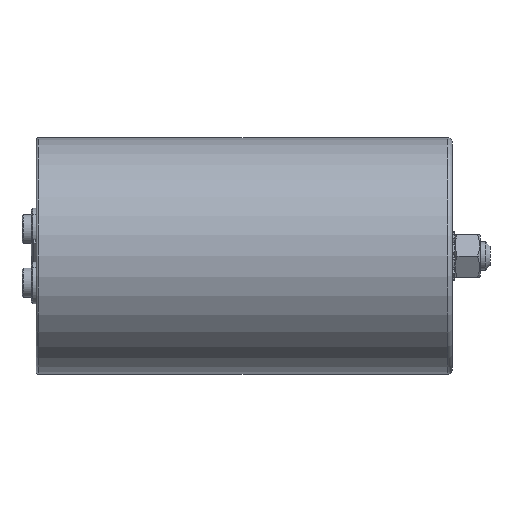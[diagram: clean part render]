
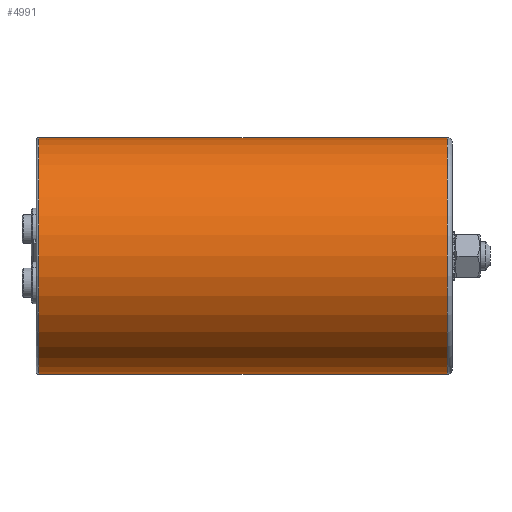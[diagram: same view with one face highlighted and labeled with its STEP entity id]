
A CAD part, left-side view. The second image highlights one B-rep face of the part: STEP entity #4991.
In plain terms, the highlighted cylindrical face has radius 50 mm (diameter 100 mm), a partial arc.
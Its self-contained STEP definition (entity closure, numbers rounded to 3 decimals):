
#579 = AXIS2_PLACEMENT_3D ( 'NONE', #5250, #2108, #3945 ) ;
#869 = EDGE_LOOP ( 'NONE', ( #922, #885, #3490, #1174 ) ) ;
#885 = ORIENTED_EDGE ( 'NONE', *, *, #2306, .T. ) ;
#922 = ORIENTED_EDGE ( 'NONE', *, *, #5337, .T. ) ;
#1113 = DIRECTION ( 'NONE',  ( 0., 1., 0. ) ) ;
#1174 = ORIENTED_EDGE ( 'NONE', *, *, #3330, .F. ) ;
#1218 = VERTEX_POINT ( 'NONE', #2378 ) ;
#1743 = DIRECTION ( 'NONE',  ( 0., 1., 0. ) ) ;
#1957 = DIRECTION ( 'NONE',  ( 0., 0., -1. ) ) ;
#2089 = AXIS2_PLACEMENT_3D ( 'NONE', #6515, #6971, #1957 ) ;
#2108 = DIRECTION ( 'NONE',  ( 0., -1., 0. ) ) ;
#2306 = EDGE_CURVE ( 'NONE', #4653, #3576, #2626, .T. ) ;
#2378 = CARTESIAN_POINT ( 'NONE',  ( 0., -174., -50. ) ) ;
#2626 = LINE ( 'NONE', #7647, #3880 ) ;
#3109 = LINE ( 'NONE', #3569, #4172 ) ;
#3227 = AXIS2_PLACEMENT_3D ( 'NONE', #6752, #1113, #6153 ) ;
#3330 = EDGE_CURVE ( 'NONE', #1218, #6441, #3109, .T. ) ;
#3490 = ORIENTED_EDGE ( 'NONE', *, *, #5012, .T. ) ;
#3557 = FACE_OUTER_BOUND ( 'NONE', #869, .T. ) ;
#3569 = CARTESIAN_POINT ( 'NONE',  ( 0., -10., -50. ) ) ;
#3576 = VERTEX_POINT ( 'NONE', #7809 ) ;
#3880 = VECTOR ( 'NONE', #6967, 1000. ) ;
#3920 = CARTESIAN_POINT ( 'NONE',  ( 0., -1., -50. ) ) ;
#3945 = DIRECTION ( 'NONE',  ( 0., 0., 1. ) ) ;
#4172 = VECTOR ( 'NONE', #1743, 1000. ) ;
#4653 = VERTEX_POINT ( 'NONE', #7887 ) ;
#4991 = ADVANCED_FACE ( 'NONE', ( #3557 ), #5734, .T. ) ;
#5012 = EDGE_CURVE ( 'NONE', #3576, #6441, #7509, .T. ) ;
#5250 = CARTESIAN_POINT ( 'NONE',  ( 0., -1., 0. ) ) ;
#5337 = EDGE_CURVE ( 'NONE', #1218, #4653, #7317, .T. ) ;
#5734 = CYLINDRICAL_SURFACE ( 'NONE', #2089, 50. ) ;
#6153 = DIRECTION ( 'NONE',  ( 0., 0., -1. ) ) ;
#6441 = VERTEX_POINT ( 'NONE', #3920 ) ;
#6515 = CARTESIAN_POINT ( 'NONE',  ( 0., -10., 0. ) ) ;
#6752 = CARTESIAN_POINT ( 'NONE',  ( 0., -174., 0. ) ) ;
#6967 = DIRECTION ( 'NONE',  ( 0., 1., 0. ) ) ;
#6971 = DIRECTION ( 'NONE',  ( 0., 1., 0. ) ) ;
#7317 = CIRCLE ( 'NONE', #3227, 50. ) ;
#7509 = CIRCLE ( 'NONE', #579, 50. ) ;
#7647 = CARTESIAN_POINT ( 'NONE',  ( 0., -10., 50. ) ) ;
#7809 = CARTESIAN_POINT ( 'NONE',  ( 0., -1., 50. ) ) ;
#7887 = CARTESIAN_POINT ( 'NONE',  ( 0., -174., 50. ) ) ;
